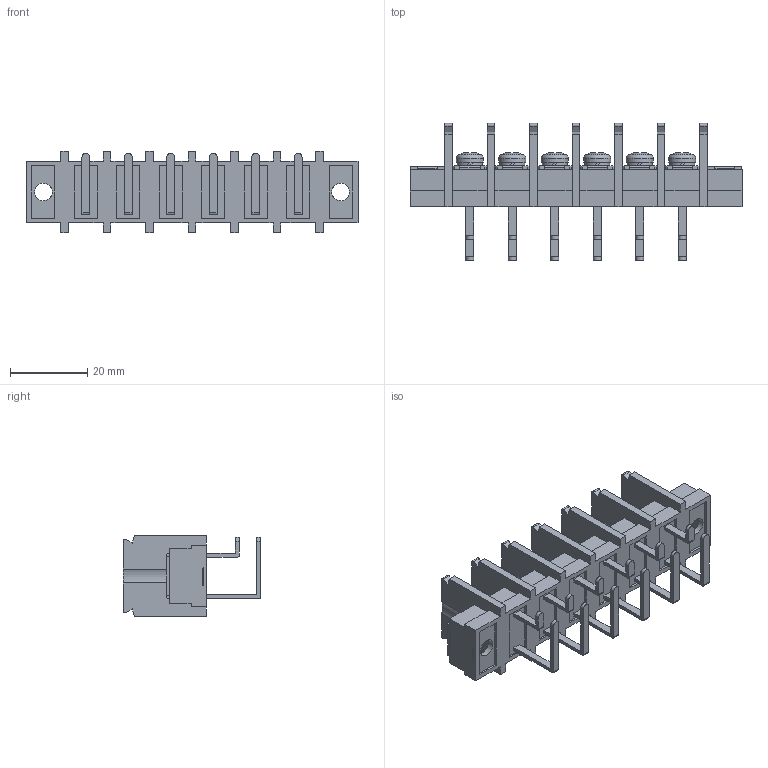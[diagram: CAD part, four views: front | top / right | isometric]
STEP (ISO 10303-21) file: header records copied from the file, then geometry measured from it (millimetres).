
FILE_DESCRIPTION(/* description */ ('Alibre Inc.'),/* implementation_level */ '2;1');
FILE_NAME(/* name */ 'export0',/* time_stamp */ '2015-12-02T13:00:46+09:00',/* author */ (''),/* organization */ (''),/* preprocessor_version */ 'ST-DEVELOPER v14',/* originating_system */ 'Alibre',/* authorisation */ '');
FILE_SCHEMA (('CONFIG_CONTROL_DESIGN'));
Length unit declared in the file: centimetre
Products named in the file (1): ID_1
Bounding box: 86 x 35.5 x 21 mm (x, y, z)
Volume: 14391.3 mm3; surface area: 16378.8 mm2
Topology: 1 solids, 17 shells, 1116 faces, 3058 edges, 2030 vertices
Faces by surface type: plane 874, bspline 104, cylinder 96, cone 30, torus 6, sphere 6
Full cylindrical faces by diameter (mm): 4 x6, 4.55 x2, 4.6 x2, 6.5 x6, 7 x6
Entity records: 33771 total; most frequent: CARTESIAN_POINT 7164, ORIENTED_EDGE 6056, DIRECTION 4147, EDGE_CURVE 3028, VECTOR 2345, LINE 2345, VERTEX_POINT 2028, AXIS2_PLACEMENT_3D 1303
